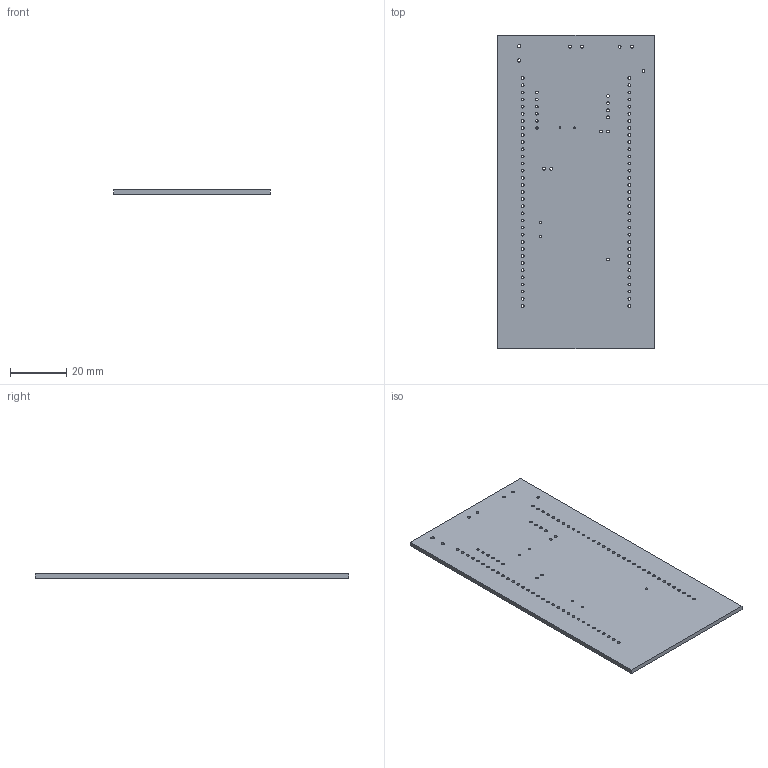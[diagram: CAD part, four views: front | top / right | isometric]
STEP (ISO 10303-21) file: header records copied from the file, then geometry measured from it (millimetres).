
FILE_DESCRIPTION(('Open CASCADE Model'),'2;1');
FILE_NAME('Open CASCADE Shape Model','2020-07-02T16:04:06',('Author'),( 'Open CASCADE'),'Open CASCADE STEP processor 6.8','Open CASCADE 6.8' ,'Unknown');
FILE_SCHEMA(('AUTOMOTIVE_DESIGN { 1 0 10303 214 1 1 1 1 }'));
Length unit declared in the file: millimetre
Products named in the file (2): PCB; Board
Assembly tree (1 placements, depth 2):
  PCB
    Board
Bounding box: 55.88 x 111.76 x 1.56 mm (x, y, z)
Volume: 9603.6 mm3; surface area: 13313.6 mm2
Topology: 1 solids, 1 shells, 98 faces, 288 edges, 192 vertices
Faces by surface type: cylinder 92, plane 6
Full cylindrical faces by diameter (mm): 0.7 x4, 0.9 x6, 1 x80, 1.2 x2
Entity records: 3783 total; most frequent: DIRECTION 672, CARTESIAN_POINT 580, ORIENTED_EDGE 576, EDGE_CURVE 288, AXIS2_PLACEMENT_3D 284, FACE_BOUND 282, EDGE_LOOP 282, VERTEX_POINT 192
